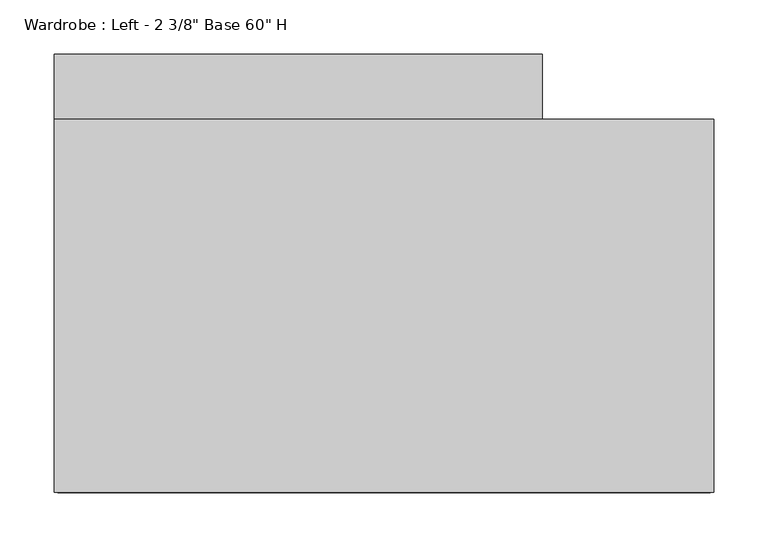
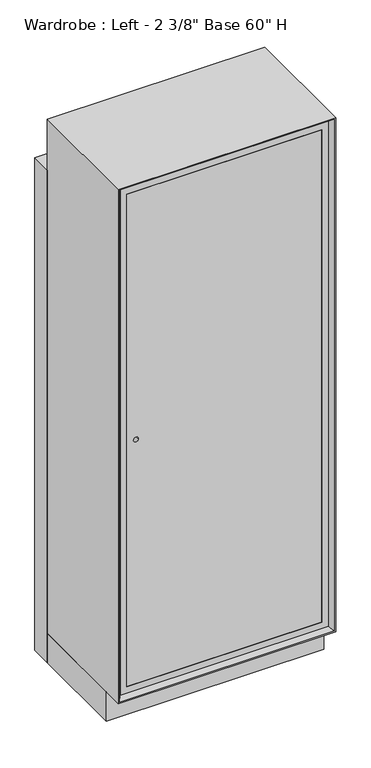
"""IFC4 building model written with IfcOpenShell, lengths in millimetres: furniture geometry."""

from ifc_helpers import new_model, si_unit, point, frame, frame_2d, origin, origin_with_axes, place, context, project, spatial, polyline, circle_curve, trimmed, segment, composite_curve, outline, extrude, faceted_brep, source, transform, mapped, element, save


def furniture_d379338e(model_context):
    return source(origin(), model_context, "Body", "SolidModel", [
        extrude(outline(polyline([(1598.6125, 292.1), (1598.6125, -292.1), (100.0125, -292.1), (100.0125, 292.1), (1598.6125, 292.1)]), holes=[polyline([(1579.5625, -273.05), (1579.5625, 273.05), (119.0625, 273.05), (119.0625, -273.05), (1579.5625, -273.05)])]), frame((0.0, -392.1125, 0.0), z_axis=(0.0, 1.0, 0.0), x_axis=(0.0, 0.0, 1.0)), (0.0, 0.0, 1.0), 331.7875),
        extrude(outline(polyline([(273.05, -60.325), (273.05, -79.375), (-273.05, -79.375), (-273.05, -60.325), (273.05, -60.325)])), frame((0.0, 0.0, 119.0625), z_axis=(0.0, 0.0, 1.0), x_axis=(1.0, 0.0, 0.0)), (0.0, 0.0, 1.0), 1460.5),
        extrude(outline(polyline([(1579.5625, 273.05), (1579.5625, -273.05), (119.0625, -273.05), (119.0625, 273.05), (1579.5625, 273.05)]), holes=[composite_curve([segment(trimmed(circle_curve(frame_2d((842.9625, -247.65)), 6.35), [point((842.9625, -254.0))], [point((842.9625, -241.3))], True, "CARTESIAN"), True, "CONTINUOUS"), segment(trimmed(circle_curve(frame_2d((842.9625, -247.65)), 6.35), [point((842.9625, -241.3))], [point((842.9625, -254.0))], True, "CARTESIAN"), True, "CONTINUOUS")], self_intersect=False)]), frame((0.0, -392.1125, 0.0), z_axis=(0.0, 1.0, 0.0), x_axis=(0.0, 0.0, 1.0)), (0.0, 0.0, 1.0), 19.05),
        faceted_brep([(292.1, -392.1125, 1598.6125), (292.1, -60.325, 1598.6125), (292.1, -60.325, 100.0125), (292.1, -392.1125, 100.0125), (301.625, -404.8125, 1608.1375), (301.625, -404.8125, 90.4875), (304.8, -60.325, 1611.3125), (304.8, -404.8125, 1611.3125), (304.8, -404.8125, 87.3125), (304.8, -60.325, 87.3125), (-292.1, -60.325, 100.0125), (-292.1, -392.1125, 100.0125), (-301.625, -404.8125, 90.4875), (-304.8, -404.8125, 87.3125), (-304.8, -60.325, 87.3125), (-292.1, -60.325, 1598.6125), (-292.1, -392.1125, 1598.6125), (-301.625, -404.8125, 1608.1375), (-304.8, -404.8125, 1611.3125), (-304.8, -60.325, 1611.3125)], [[[0, 1, 2, 3]], [[4, 0, 3, 5]], [[6, 7, 8, 9]], [[3, 2, 10, 11]], [[5, 3, 11, 12]], [[9, 8, 13, 14]], [[11, 10, 15, 16]], [[12, 11, 16, 17]], [[14, 13, 18, 19]], [[9, 14, 19, 6], [1, 15, 10, 2]], [[16, 15, 1, 0]], [[17, 16, 0, 4]], [[7, 18, 13, 8], [5, 12, 17, 4]], [[19, 18, 7, 6]]]),
        extrude(outline(polyline([(-304.8, 0.0), (146.2, 0.0), (146.2, -60.325), (-304.8, -60.325), (-304.8, 0.0)])), origin_with_axes(), (0.0, 0.0, 1.0), 1460.5),
        extrude(outline(polyline([(304.8, -60.325), (304.8, -347.6625), (-304.8, -347.6625), (-304.8, -60.325), (304.8, -60.325)])), origin_with_axes(), (0.0, 0.0, 1.0), 87.3125),
    ])


if __name__ == "__main__":
    model = new_model("IFC4")
    model_context = context("Model", 3, world=origin())
    ifc_project = project(units=[si_unit("LENGTHUNIT", "METRE", prefix="MILLI")], contexts=[model_context])
    site = spatial("IfcSite", under=ifc_project)
    building = spatial("IfcBuilding", under=site)
    placement = place(None, origin())
    furniture_shape = furniture_d379338e(model_context)
    element("IfcFurniture", 1, ObjectType="Wardrobe : Left - 2 3/8\" Base 60\" H", at=placement, inside=building, context=model_context, shape_type="MappedRepresentation", body=[
        mapped(furniture_shape, transform((0.0, 0.0, 0.0), x_axis=(1.0, 0.0, 0.0), y_axis=(0.0, 1.0, 0.0), z_axis=(0.0, 0.0, 1.0))),
    ])
    save(model, "model.ifc")
